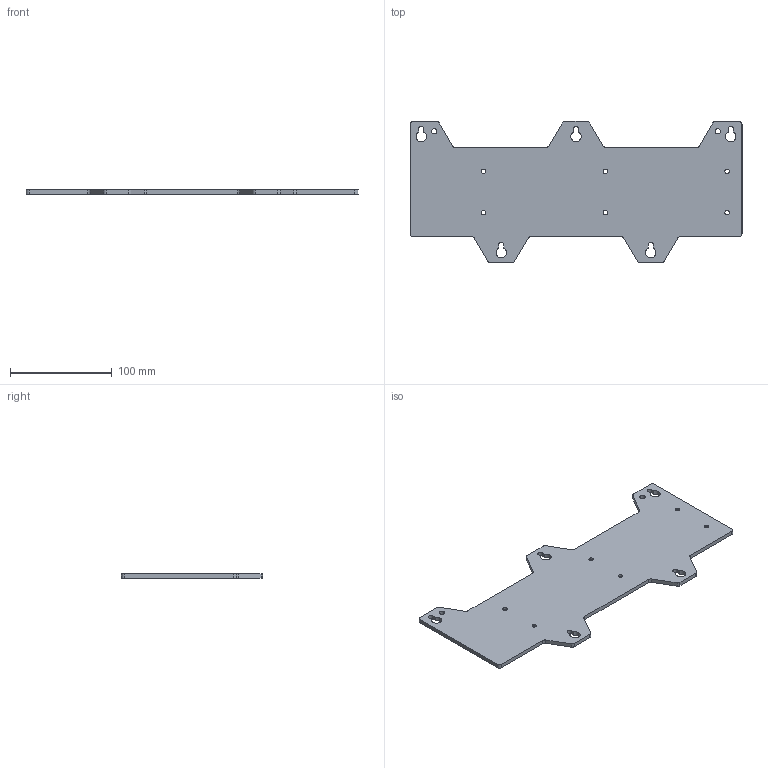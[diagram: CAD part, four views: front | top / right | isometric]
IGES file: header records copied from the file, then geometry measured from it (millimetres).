
Start section:  PTC IGES file: cu_panel_mount_smasher_8slot.igs
Global section: file name: cu_panel_mount_smasher_8slot.igs; native system: Creo Parametric by Parametric Technology Corporation; preprocessor: 2014000; author: jbuhisan; organization: Unknown; date: 20150311.162559; units: inch
Bounding box: 327.02 x 138.94 x 4 mm (x, y, z)
Surface area: 71164.4 mm2 (no closed solid volume)
Topology: 0 solids, 0 shells, 90 faces, 504 edges, 504 vertices
Faces by surface type: revolution 58, bspline 32
